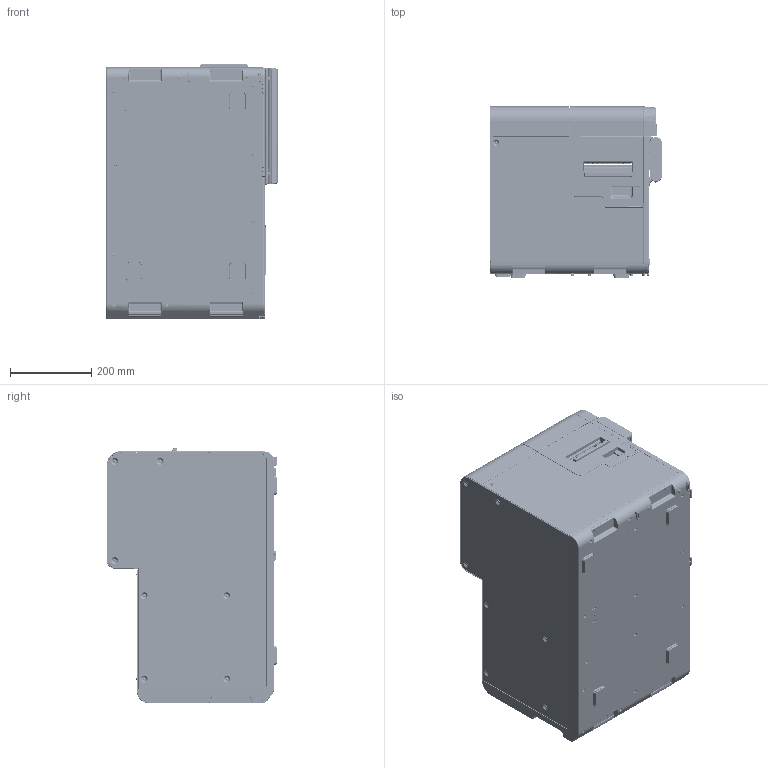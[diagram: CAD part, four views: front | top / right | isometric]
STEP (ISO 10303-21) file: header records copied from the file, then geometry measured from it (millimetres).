
FILE_DESCRIPTION((''),'2;1');
FILE_NAME('DEL-CW-C8000_CLOSE_250131','2025-01-31T16:01:46',('5011256'),(''),'CREO PARAMETRIC BY PTC INC, 2021184','CREO PARAMETRIC BY PTC INC, 2021184','');
FILE_SCHEMA(('AUTOMOTIVE_DESIGN { 1 0 10303 214 1 1 1 1 }'));
Length unit declared in the file: millimetre
Products named in the file (1): DEL-CW-C8000_CLOSE_250131
Bounding box: 422.61 x 420 x 627.3 mm (x, y, z)
Surface area: 6317682.8 mm2 (no closed solid volume)
Topology: 0 solids, 954 shells, 22233 faces, 85622 edges, 62030 vertices
Faces by surface type: plane 11644, cylinder 7483, torus 975, cone 904, bspline 808, sphere 399, extrusion 20
Entity records: 1403690 total; most frequent: CARTESIAN_POINT 715558, ORIENTED_EDGE 136334, DIRECTION 130824, EDGE_CURVE 85340, VERTEX_POINT 62030, VECTOR 50634, LINE 50614, AXIS2_PLACEMENT_3D 40095
